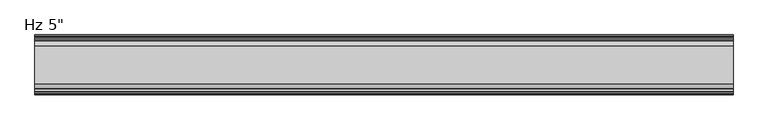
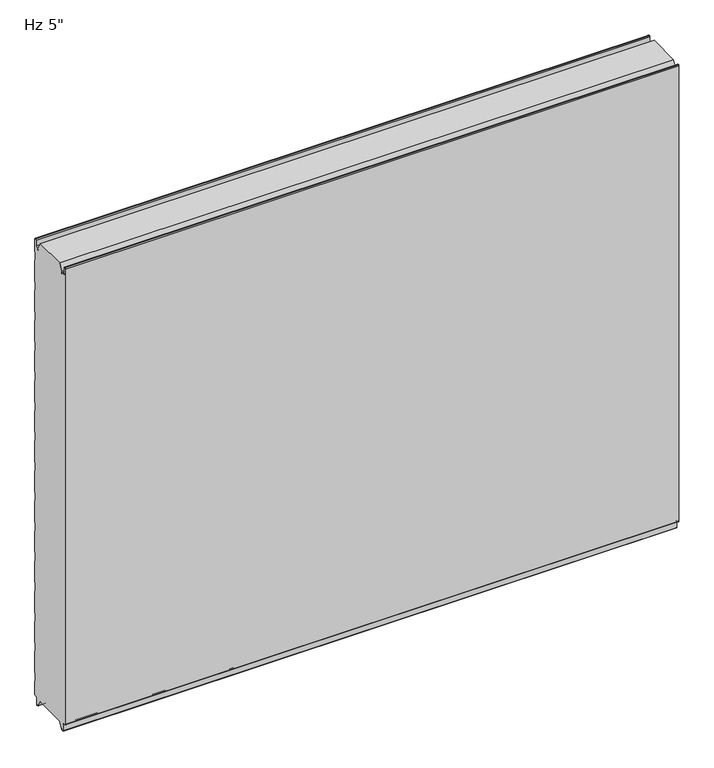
"""IFC4 building model written with IfcOpenShell, lengths in millimetres: plate geometry."""

from ifc_helpers import new_model, si_unit, frame, origin, place, context, project, spatial, polyline, circle_curve, source, transform, mapped, element, save
from ifc_brep_helpers import plane_surface, cylinder_surface, revolved_surface, advanced_brep


def plate_ce0f698b(model_context):
    return source(origin(), model_context, "Body", "AdvancedBrep", [
        advanced_brep(
        [(-730.0, -124.0227194, 3.8499499), (-730.0, -125.9999935, 5.8272239), (-730.0, -126.0, 1150.8100652), (-730.0, -124.0227315, 1152.7873337), (-730.0, -122.9806329, 1152.7873337), (-730.0, -121.0033643, 1150.8100652), (-730.0, -121.0033643, 1136.6216802), (-730.0, -118.4154878, 1134.0338036), (-730.0, -114.0950697, 1134.0338036), (-730.0, -113.5060762, 1133.4253365), (-730.0, -113.5060762, 1131.0482432), (-730.0, -112.5066023, 1131.0482432), (-730.0, -112.5066023, 1136.4905123), (-730.0, -103.2490865, 1152.525), (-730.0, -23.7509179, 1152.525), (-730.0, -14.4934021, 1136.4905123), (-730.0, -14.4934021, 1131.0482432), (-730.0, -13.4939282, 1131.0482432), (-730.0, -13.4939282, 1133.4253365), (-730.0, -12.9049347, 1134.0338036), (-730.0, -8.5845165, 1134.0338036), (-730.0, -5.99664, 1136.6216802), (-730.0, -5.99664, 1150.8100652), (-730.0, -4.0193715, 1152.7873337), (-730.0, -2.9772729, 1152.7873337), (-730.0, -1.0000044, 1150.8100652), (-730.0, -1.0000044, 1118.6385351), (-730.0, -2.1911595, 1117.5660142), (-730.0, -2.1911595, 1097.7830195), (-730.0, -1.0, 1096.7104947), (-730.0, -1.0, 1043.0159187), (-730.0, -2.1911595, 1041.9433939), (-730.0, -2.1911595, 1022.1603992), (-730.0, -1.0, 1021.0878744), (-730.0, -1.0, 967.3932985), (-730.0, -2.1911595, 966.3207736), (-730.0, -2.1911595, 946.537779), (-730.0, -1.0, 945.4652541), (-730.0, -1.0, 891.7706782), (-730.0, -2.1911595, 890.6981534), (-730.0, -2.1911595, 870.9151587), (-730.0, -1.0, 869.8426339), (-730.0, -1.0, 816.148058), (-730.0, -2.1911595, 815.0755331), (-730.0, -2.1911595, 795.2925384), (-730.0, -1.0, 794.2200136), (-730.0, -1.0, 740.5254377), (-730.0, -2.1911595, 739.4529129), (-730.0, -2.1911595, 719.6699182), (-730.0, -1.0, 718.5973933), (-730.0, -1.0, 664.9028174), (-730.0, -2.1911595, 663.8302926), (-730.0, -2.1911595, 644.0472979), (-730.0, -1.0, 642.9747731), (-730.0, -1.0, 589.2801972), (-730.0, -2.1911595, 588.2076723), (-730.0, -2.1911595, 568.4246776), (-730.0, -1.0, 567.3521528), (-730.0, -1.0, 513.6575769), (-730.0, -2.1911595, 512.5850521), (-730.0, -2.1911595, 492.8020574), (-730.0, -1.0, 491.7295325), (-730.0, -1.0, 438.0349566), (-730.0, -2.1911595, 436.9624318), (-730.0, -2.1911595, 417.1794371), (-730.0, -1.0, 416.1069123), (-730.0, -1.0, 362.4123364), (-730.0, -2.1911595, 361.3398115), (-730.0, -2.1911595, 341.5568169), (-730.0, -1.0, 340.484292), (-730.0, -1.0, 286.7897161), (-730.0, -2.1911595, 285.7171913), (-730.0, -2.1911595, 265.9341966), (-730.0, -1.0, 264.8616718), (-730.0, -1.0, 211.1670958), (-730.0, -2.1911595, 210.094571), (-730.0, -2.1911595, 190.3115763), (-730.0, -1.0, 189.2390515), (-730.0, -1.0, 135.5444756), (-730.0, -2.1911595, 134.4719507), (-730.0, -2.1911595, 114.6889561), (-730.0, -1.0, 113.6164312), (-730.0, -1.0, 59.9218553), (-730.0, -2.1911595, 58.8493305), (-730.0, -2.1911595, 39.0663358), (-730.0, -1.0000109, 37.993811), (-730.0, -1.0000109, 5.8272239), (-730.0, -2.9772849, 3.8499499), (-730.0, -5.2691749, 3.8499499), (-730.0, -9.246442, -0.1273173), (-730.0, -9.246442, -15.7237417), (-730.0, -9.8343189, -16.3116186), (-730.0, -12.9058679, -16.3116186), (-730.0, -13.4937446, -15.723742), (-730.0, -13.4937446, -13.3687064), (-730.0, -14.4937446, -13.3687064), (-730.0, -14.4937446, -15.6582851), (-730.0, -23.7509179, 0.0), (-730.0, -103.2490865, 0.0), (-730.0, -112.5062598, -15.6582851), (-730.0, -112.5062598, -13.3687064), (-730.0, -113.5062598, -13.3687064), (-730.0, -113.5062598, -15.723742), (-730.0, -114.0941365, -16.3116186), (-730.0, -117.1656854, -16.3116186), (-730.0, -117.7535623, -15.7237417), (-730.0, -117.7535623, -0.1273173), (-730.0, -121.7308295, 3.8499499), (730.0, -124.0227194, 3.8499499), (730.0, -121.7308295, 3.8499499), (730.0, -117.7535623, -0.1273173), (730.0, -117.7535623, -15.7237417), (730.0, -117.1656854, -16.3116186), (730.0, -114.0941365, -16.3116186), (730.0, -113.5062598, -15.723742), (730.0, -113.5062598, -13.3687064), (730.0, -112.5062598, -13.3687064), (730.0, -112.5062598, -15.6582851), (730.0, -103.2490865, 0.0), (730.0, -23.7509179, 0.0), (730.0, -14.4937446, -15.6582851), (730.0, -14.4937446, -13.3687064), (730.0, -13.4937446, -13.3687064), (730.0, -13.4937446, -15.723742), (730.0, -12.9058679, -16.3116186), (730.0, -9.8343189, -16.3116186), (730.0, -9.246442, -15.7237417), (730.0, -9.246442, -0.1273173), (730.0, -5.2691749, 3.8499499), (730.0, -2.9772849, 3.8499499), (730.0, -1.0000109, 5.8272239), (730.0, -1.0000109, 37.993811), (730.0, -2.1911595, 39.0663358), (730.0, -2.1911595, 58.8493305), (730.0, -1.0, 59.9218553), (730.0, -1.0, 113.6164312), (730.0, -2.1911595, 114.6889561), (730.0, -2.1911595, 134.4719507), (730.0, -1.0, 135.5444756), (730.0, -1.0, 189.2390515), (730.0, -2.1911595, 190.3115763), (730.0, -2.1911595, 210.094571), (730.0, -1.0, 211.1670958), (730.0, -1.0, 264.8616718), (730.0, -2.1911595, 265.9341966), (730.0, -2.1911595, 285.7171913), (730.0, -1.0, 286.7897161), (730.0, -1.0, 340.484292), (730.0, -2.1911595, 341.5568169), (730.0, -2.1911595, 361.3398115), (730.0, -1.0, 362.4123364), (730.0, -1.0, 416.1069123), (730.0, -2.1911595, 417.1794371), (730.0, -2.1911595, 436.9624318), (730.0, -1.0, 438.0349566), (730.0, -1.0, 491.7295325), (730.0, -2.1911595, 492.8020574), (730.0, -2.1911595, 512.5850521), (730.0, -1.0, 513.6575769), (730.0, -1.0, 567.3521528), (730.0, -2.1911595, 568.4246776), (730.0, -2.1911595, 588.2076723), (730.0, -1.0, 589.2801972), (730.0, -1.0, 642.9747731), (730.0, -2.1911595, 644.0472979), (730.0, -2.1911595, 663.8302926), (730.0, -1.0, 664.9028174), (730.0, -1.0, 718.5973933), (730.0, -2.1911595, 719.6699182), (730.0, -2.1911595, 739.4529129), (730.0, -1.0, 740.5254377), (730.0, -1.0, 794.2200136), (730.0, -2.1911595, 795.2925384), (730.0, -2.1911595, 815.0755331), (730.0, -1.0, 816.148058), (730.0, -1.0, 869.8426339), (730.0, -2.1911595, 870.9151587), (730.0, -2.1911595, 890.6981534), (730.0, -1.0, 891.7706782), (730.0, -1.0, 945.4652541), (730.0, -2.1911595, 946.537779), (730.0, -2.1911595, 966.3207736), (730.0, -1.0, 967.3932985), (730.0, -1.0, 1021.0878744), (730.0, -2.1911595, 1022.1603992), (730.0, -2.1911595, 1041.9433939), (730.0, -1.0, 1043.0159187), (730.0, -1.0, 1096.7104947), (730.0, -2.1911595, 1097.7830195), (730.0, -2.1911595, 1117.5660142), (730.0, -1.0000044, 1118.6385351), (730.0, -1.0000044, 1150.8100652), (730.0, -2.9772729, 1152.7873337), (730.0, -4.0193715, 1152.7873337), (730.0, -5.99664, 1150.8100652), (730.0, -5.99664, 1136.6216802), (730.0, -8.5845165, 1134.0338036), (730.0, -12.9049347, 1134.0338036), (730.0, -13.4939282, 1133.4253365), (730.0, -13.4939282, 1131.0482432), (730.0, -14.4934021, 1131.0482432), (730.0, -14.4934021, 1136.4905123), (730.0, -23.7509179, 1152.525), (730.0, -103.2490865, 1152.525), (730.0, -112.5066023, 1136.4905123), (730.0, -112.5066023, 1131.0482432), (730.0, -113.5060762, 1131.0482432), (730.0, -113.5060762, 1133.4253365), (730.0, -114.0950697, 1134.0338036), (730.0, -118.4154878, 1134.0338036), (730.0, -121.0033643, 1136.6216802), (730.0, -121.0033643, 1150.8100652), (730.0, -122.9806329, 1152.7873337), (730.0, -124.0227315, 1152.7873337), (730.0, -126.0, 1150.8100652), (730.0, -126.0, 5.8272239)],
        [
            (0, 1, circle_curve(frame((-730.0, -124.0227194, 5.8272239), z_axis=(-1.0, 0.0, 0.0), x_axis=(0.0, 0.0, -1.0)), 1.977274)),
            (1, 2),
            (2, 3, circle_curve(frame((-730.0, -124.0227315, 1150.8100652), z_axis=(-1.0, 0.0, 0.0), x_axis=(0.0, 0.0, -1.0)), 1.9772685)),
            (3, 4),
            (4, 5, circle_curve(frame((-730.0, -122.9806329, 1150.8100652), z_axis=(-1.0, 0.0, 0.0), x_axis=(0.0, 0.0, -1.0)), 1.9772685)),
            (5, 6),
            (6, 7, circle_curve(frame((-730.0, -118.4154878, 1136.6216802), z_axis=(1.0, 0.0, 0.0), x_axis=(0.0, 0.0, -1.0)), 2.5878765)),
            (7, 8),
            (8, 9, circle_curve(frame((-730.0, -114.0950697, 1133.4444985), z_axis=(-1.0, 0.0, 0.0), x_axis=(0.0, 0.0, -1.0)), 0.5893051)),
            (9, 10),
            (10, 11),
            (11, 12),
            (12, 13),
            (13, 14),
            (14, 15),
            (15, 16),
            (16, 17),
            (17, 18),
            (18, 19, circle_curve(frame((-730.0, -12.9049347, 1133.4444985), z_axis=(-1.0, 0.0, 0.0), x_axis=(0.0, 1.0, 0.0)), 0.5893051)),
            (19, 20),
            (20, 21, circle_curve(frame((-730.0, -8.5845165, 1136.6216802), z_axis=(1.0, 0.0, 0.0), x_axis=(0.0, 1.0, 0.0)), 2.5878765)),
            (21, 22),
            (22, 23, circle_curve(frame((-730.0, -4.0193715, 1150.8100652), z_axis=(-1.0, 0.0, 0.0), x_axis=(0.0, 1.0, 0.0)), 1.9772685)),
            (23, 24),
            (24, 25, circle_curve(frame((-730.0, -2.9772729, 1150.8100652), z_axis=(-1.0, 0.0, 0.0), x_axis=(0.0, 1.0, 0.0)), 1.9772685)),
            (25, 26),
            (26, 27),
            (27, 28),
            (28, 29),
            (29, 30),
            (30, 31),
            (31, 32),
            (32, 33),
            (33, 34),
            (34, 35),
            (35, 36),
            (36, 37),
            (37, 38),
            (38, 39),
            (39, 40),
            (40, 41),
            (41, 42),
            (42, 43),
            (43, 44),
            (44, 45),
            (45, 46),
            (46, 47),
            (47, 48),
            (48, 49),
            (49, 50),
            (50, 51),
            (51, 52),
            (52, 53),
            (53, 54),
            (54, 55),
            (55, 56),
            (56, 57),
            (57, 58),
            (58, 59),
            (59, 60),
            (60, 61),
            (61, 62),
            (62, 63),
            (63, 64),
            (64, 65),
            (65, 66),
            (66, 67),
            (67, 68),
            (68, 69),
            (69, 70),
            (70, 71),
            (71, 72),
            (72, 73),
            (73, 74),
            (74, 75),
            (75, 76),
            (76, 77),
            (77, 78),
            (78, 79),
            (79, 80),
            (80, 81),
            (81, 82),
            (82, 83),
            (83, 84),
            (84, 85),
            (85, 86),
            (86, 87, circle_curve(frame((-730.0, -2.9772849, 5.8272239), z_axis=(-1.0, 0.0, 0.0), x_axis=(0.0, 1.0, 0.0)), 1.977274)),
            (87, 88),
            (88, 89, circle_curve(frame((-730.0, -5.2691749, -0.1273173), z_axis=(1.0, 0.0, 0.0), x_axis=(0.0, 1.0, 0.0)), 3.9772671)),
            (89, 90),
            (90, 91, circle_curve(frame((-730.0, -9.8343189, -15.7237417), z_axis=(-1.0, 0.0, 0.0), x_axis=(0.0, 1.0, 0.0)), 0.5878769)),
            (91, 92),
            (92, 93, circle_curve(frame((-730.0, -12.9058679, -15.723742), z_axis=(-1.0, 0.0, 0.0), x_axis=(0.0, 1.0, 0.0)), 0.5878766)),
            (93, 94),
            (94, 95),
            (95, 96),
            (96, 97),
            (97, 98),
            (98, 99),
            (99, 100),
            (100, 101),
            (101, 102),
            (102, 103, circle_curve(frame((-730.0, -114.0941365, -15.723742), z_axis=(-1.0, 0.0, 0.0), x_axis=(0.0, 0.0, -1.0)), 0.5878766)),
            (103, 104),
            (104, 105, circle_curve(frame((-730.0, -117.1656854, -15.7237417), z_axis=(-1.0, 0.0, 0.0), x_axis=(0.0, 0.0, -1.0)), 0.5878769)),
            (105, 106),
            (106, 107, circle_curve(frame((-730.0, -121.7308295, -0.1273173), z_axis=(1.0, 0.0, 0.0), x_axis=(0.0, 0.0, -1.0)), 3.9772671)),
            (107, 0),
            (108, 109),
            (109, 110, circle_curve(frame((730.0, -121.7308295, -0.1273173), z_axis=(-1.0, 0.0, 0.0), x_axis=(0.0, 0.0, -1.0)), 3.9772671)),
            (110, 111),
            (111, 112, circle_curve(frame((730.0, -117.1656854, -15.7237417), z_axis=(1.0, 0.0, 0.0), x_axis=(0.0, 0.0, -1.0)), 0.5878769)),
            (112, 113),
            (113, 114, circle_curve(frame((730.0, -114.0941365, -15.723742), z_axis=(1.0, 0.0, 0.0), x_axis=(0.0, 0.0, -1.0)), 0.5878766)),
            (114, 115),
            (115, 116),
            (116, 117),
            (117, 118),
            (118, 119),
            (119, 120),
            (120, 121),
            (121, 122),
            (122, 123),
            (123, 124, circle_curve(frame((730.0, -12.9058679, -15.723742), z_axis=(1.0, 0.0, 0.0), x_axis=(0.0, 1.0, 0.0)), 0.5878766)),
            (124, 125),
            (125, 126, circle_curve(frame((730.0, -9.8343189, -15.7237417), z_axis=(1.0, 0.0, 0.0), x_axis=(0.0, 1.0, 0.0)), 0.5878769)),
            (126, 127),
            (127, 128, circle_curve(frame((730.0, -5.2691749, -0.1273173), z_axis=(-1.0, 0.0, 0.0), x_axis=(0.0, 1.0, 0.0)), 3.9772671)),
            (128, 129),
            (129, 130, circle_curve(frame((730.0, -2.9772849, 5.8272239), z_axis=(1.0, 0.0, 0.0), x_axis=(0.0, 1.0, 0.0)), 1.977274)),
            (130, 131),
            (131, 132),
            (132, 133),
            (133, 134),
            (134, 135),
            (135, 136),
            (136, 137),
            (137, 138),
            (138, 139),
            (139, 140),
            (140, 141),
            (141, 142),
            (142, 143),
            (143, 144),
            (144, 145),
            (145, 146),
            (146, 147),
            (147, 148),
            (148, 149),
            (149, 150),
            (150, 151),
            (151, 152),
            (152, 153),
            (153, 154),
            (154, 155),
            (155, 156),
            (156, 157),
            (157, 158),
            (158, 159),
            (159, 160),
            (160, 161),
            (161, 162),
            (162, 163),
            (163, 164),
            (164, 165),
            (165, 166),
            (166, 167),
            (167, 168),
            (168, 169),
            (169, 170),
            (170, 171),
            (171, 172),
            (172, 173),
            (173, 174),
            (174, 175),
            (175, 176),
            (176, 177),
            (177, 178),
            (178, 179),
            (179, 180),
            (180, 181),
            (181, 182),
            (182, 183),
            (183, 184),
            (184, 185),
            (185, 186),
            (186, 187),
            (187, 188),
            (188, 189),
            (189, 190),
            (190, 191),
            (191, 192, circle_curve(frame((730.0, -2.9772729, 1150.8100652), z_axis=(1.0, 0.0, 0.0), x_axis=(0.0, 1.0, 0.0)), 1.9772685)),
            (192, 193),
            (193, 194, circle_curve(frame((730.0, -4.0193715, 1150.8100652), z_axis=(1.0, 0.0, 0.0), x_axis=(0.0, 1.0, 0.0)), 1.9772685)),
            (194, 195),
            (195, 196, circle_curve(frame((730.0, -8.5845165, 1136.6216802), z_axis=(-1.0, 0.0, 0.0), x_axis=(0.0, 1.0, 0.0)), 2.5878765)),
            (196, 197),
            (197, 198, circle_curve(frame((730.0, -12.9049347, 1133.4444985), z_axis=(1.0, 0.0, 0.0), x_axis=(0.0, 1.0, 0.0)), 0.5893051)),
            (198, 199),
            (199, 200),
            (200, 201),
            (201, 202),
            (202, 203),
            (203, 204),
            (204, 205),
            (205, 206),
            (206, 207),
            (207, 208, circle_curve(frame((730.0, -114.0950697, 1133.4444985), z_axis=(1.0, 0.0, 0.0), x_axis=(0.0, 0.0, -1.0)), 0.5893051)),
            (208, 209),
            (209, 210, circle_curve(frame((730.0, -118.4154878, 1136.6216802), z_axis=(-1.0, 0.0, 0.0), x_axis=(0.0, 0.0, -1.0)), 2.5878765)),
            (210, 211),
            (211, 212, circle_curve(frame((730.0, -122.9806329, 1150.8100652), z_axis=(1.0, 0.0, 0.0), x_axis=(0.0, 0.0, -1.0)), 1.9772685)),
            (212, 213),
            (213, 214, circle_curve(frame((730.0, -124.0227315, 1150.8100652), z_axis=(1.0, 0.0, 0.0), x_axis=(0.0, 0.0, -1.0)), 1.9772685)),
            (214, 215),
            (215, 108, circle_curve(frame((730.0, -124.0227194, 5.8272239), z_axis=(1.0, 0.0, 0.0), x_axis=(0.0, 0.0, -1.0)), 1.977274)),
            (27, 189),
            (188, 28),
            (26, 190),
            (25, 191),
            (24, 192),
            (23, 193),
            (22, 194),
            (21, 195),
            (20, 196),
            (19, 197),
            (18, 198),
            (17, 199),
            (16, 200),
            (15, 201),
            (14, 202),
            (96, 120),
            (119, 97),
            (95, 121),
            (94, 122),
            (93, 123),
            (92, 124),
            (91, 125),
            (90, 126),
            (89, 127),
            (88, 128),
            (87, 129),
            (86, 130),
            (85, 131),
            (84, 132),
            (83, 133),
            (82, 134),
            (81, 135),
            (80, 136),
            (79, 137),
            (78, 138),
            (77, 139),
            (76, 140),
            (75, 141),
            (74, 142),
            (73, 143),
            (72, 144),
            (71, 145),
            (70, 146),
            (69, 147),
            (68, 148),
            (67, 149),
            (66, 150),
            (65, 151),
            (64, 152),
            (63, 153),
            (62, 154),
            (61, 155),
            (60, 156),
            (59, 157),
            (58, 158),
            (57, 159),
            (56, 160),
            (55, 161),
            (54, 162),
            (53, 163),
            (52, 164),
            (51, 165),
            (50, 166),
            (49, 167),
            (48, 168),
            (47, 169),
            (46, 170),
            (45, 171),
            (44, 172),
            (43, 173),
            (42, 174),
            (41, 175),
            (40, 176),
            (39, 177),
            (38, 178),
            (37, 179),
            (36, 180),
            (35, 181),
            (34, 182),
            (33, 183),
            (32, 184),
            (31, 185),
            (30, 186),
            (29, 187),
            (13, 203),
            (118, 98),
            (107, 109),
            (108, 0),
            (106, 110),
            (105, 111),
            (104, 112),
            (103, 113),
            (102, 114),
            (101, 115),
            (100, 116),
            (99, 117),
            (12, 204),
            (11, 205),
            (10, 206),
            (9, 207),
            (8, 208),
            (7, 209),
            (6, 210),
            (5, 211),
            (4, 212),
            (3, 213),
            (2, 214),
            (1, 215),
        ],
        [
            plane_surface(frame((-730.0, -126.0, 576.2625), z_axis=(-1.0, 0.0, 0.0), x_axis=(0.0, -1.0, 0.0))),
            plane_surface(frame((730.0, -126.0, 576.2625), z_axis=(1.0, 0.0, 0.0), x_axis=(0.0, -1.0, 0.0))),
            plane_surface(frame((-730.0, -2.1911595, 1097.7830195), z_axis=(0.0, 1.0, 0.0), x_axis=(1.0, 0.0, 0.0))),
            plane_surface(frame((-730.0, -2.1911595, 1117.5660142), z_axis=(0.0, 0.669130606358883, -0.7431448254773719), x_axis=(1.0, 0.0, 0.0))),
            plane_surface(frame((-730.0, -1.0000044, 1118.6385351), z_axis=(0.0, 1.0, 0.0), x_axis=(1.0, 0.0, 0.0))),
            cylinder_surface(frame((-730.0, -2.9772729, 1150.8100652), z_axis=(-1.0, 0.0, 0.0), x_axis=(0.0, 1.0, 0.0)), 1.9772685),
            plane_surface(frame((-730.0, -2.9772729, 1152.7873337), z_axis=(0.0, 0.0, 1.0), x_axis=(1.0, 0.0, 0.0))),
            cylinder_surface(frame((-730.0, -4.0193715, 1150.8100652), z_axis=(-1.0, 0.0, 0.0), x_axis=(0.0, 1.0, 0.0)), 1.9772685),
            plane_surface(frame((-730.0, -5.99664, 1150.8100652), z_axis=(0.0, -1.0, 0.0), x_axis=(1.0, 0.0, 0.0))),
            revolved_surface(polyline([(730.0, -5.996639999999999, 1136.6216802), (-730.0, -5.996639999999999, 1136.6216802)]), (-730.0, -8.5845165, 1136.6216802), (1.0, 0.0, 0.0)),
            plane_surface(frame((-730.0, -8.5845165, 1134.0338036), z_axis=(0.0, 0.0, 1.0), x_axis=(1.0, 0.0, 0.0))),
            cylinder_surface(frame((-730.0, -12.9049347, 1133.4444985), z_axis=(-1.0, 0.0, 0.0), x_axis=(0.0, 1.0, 0.0)), 0.5893051),
            plane_surface(frame((-730.0, -13.4939282, 1133.4253365), z_axis=(0.0, -1.0, 0.0), x_axis=(1.0, 0.0, 0.0))),
            plane_surface(frame((-730.0, -13.4939282, 1131.0482432), z_axis=(0.0, 0.0, 1.0), x_axis=(1.0, 0.0, 0.0))),
            plane_surface(frame((-730.0, -14.4934021, 1131.0482432), z_axis=(0.0, 1.0, 0.0), x_axis=(1.0, 0.0, 0.0))),
            plane_surface(frame((-730.0, -14.4934021, 1136.4905123), z_axis=(0.0, 0.8660254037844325, 0.5000000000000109), x_axis=(1.0, 0.0, 0.0))),
            plane_surface(frame((-730.0, -23.7509179, 0.0), z_axis=(0.0, -0.8608169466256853, -0.5089147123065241), x_axis=(1.0, 0.0, 0.0))),
            plane_surface(frame((-730.0, -14.4937446, -15.6582851), z_axis=(0.0, 1.0, 0.0), x_axis=(1.0, 0.0, 0.0))),
            plane_surface(frame((-730.0, -14.4937446, -13.3687064), z_axis=(0.0, 0.0, -1.0), x_axis=(1.0, 0.0, 0.0))),
            plane_surface(frame((-730.0, -13.4937446, -13.3687064), z_axis=(0.0, -1.0, 0.0), x_axis=(1.0, 0.0, 0.0))),
            cylinder_surface(frame((-730.0, -12.9058679, -15.723742), z_axis=(-1.0, 0.0, 0.0), x_axis=(0.0, 1.0, 0.0)), 0.5878766),
            plane_surface(frame((-730.0, -12.9058679, -16.3116186), z_axis=(0.0, 0.0, -1.0), x_axis=(1.0, 0.0, 0.0))),
            cylinder_surface(frame((-730.0, -9.8343189, -15.7237417), z_axis=(-1.0, 0.0, 0.0), x_axis=(0.0, 1.0, 0.0)), 0.5878769),
            plane_surface(frame((-730.0, -9.246442, -15.7237417), z_axis=(0.0, 1.0, 0.0), x_axis=(1.0, 0.0, 0.0))),
            revolved_surface(polyline([(730.0, -1.2919078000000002, -0.1273173), (-730.0, -1.2919078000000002, -0.1273173)]), (-730.0, -5.2691749, -0.1273173), (1.0, 0.0, 0.0)),
            plane_surface(frame((-730.0, -5.2691749, 3.8499499), z_axis=(0.0, 0.0, -1.0), x_axis=(1.0, 0.0, 0.0))),
            cylinder_surface(frame((-730.0, -2.9772849, 5.8272239), z_axis=(-1.0, 0.0, 0.0), x_axis=(0.0, 1.0, 0.0)), 1.977274),
            plane_surface(frame((-730.0, -1.0000109, 5.8272239), z_axis=(0.0, 1.0, 0.0), x_axis=(1.0, 0.0, 0.0))),
            plane_surface(frame((-730.0, -1.0000109, 37.993811), z_axis=(0.0, 0.6691339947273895, 0.7431417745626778), x_axis=(1.0, 0.0, 0.0))),
            plane_surface(frame((-730.0, -2.1911595, 39.0663358), z_axis=(0.0, 1.0, 0.0), x_axis=(1.0, 0.0, 0.0))),
            plane_surface(frame((-730.0, -2.1911595, 58.8493305), z_axis=(0.0, 0.6691306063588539, -0.7431448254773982), x_axis=(1.0, 0.0, 0.0))),
            plane_surface(frame((-730.0, -1.0, 59.9218553), z_axis=(0.0, 1.0, 0.0), x_axis=(1.0, 0.0, 0.0))),
            plane_surface(frame((-730.0, -1.0, 113.6164312), z_axis=(0.0, 0.6691306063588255, 0.7431448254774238), x_axis=(1.0, 0.0, 0.0))),
            plane_surface(frame((-730.0, -2.1911595, 114.6889561), z_axis=(0.0, 1.0, 0.0), x_axis=(1.0, 0.0, 0.0))),
            plane_surface(frame((-730.0, -2.1911595, 134.4719507), z_axis=(0.0, 0.6691306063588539, -0.7431448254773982), x_axis=(1.0, 0.0, 0.0))),
            plane_surface(frame((-730.0, -1.0, 135.5444756), z_axis=(0.0, 1.0, 0.0), x_axis=(1.0, 0.0, 0.0))),
            plane_surface(frame((-730.0, -1.0, 189.2390515), z_axis=(0.0, 0.669130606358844, 0.743144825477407), x_axis=(1.0, 0.0, 0.0))),
            plane_surface(frame((-730.0, -2.1911595, 190.3115763), z_axis=(0.0, 1.0, 0.0), x_axis=(1.0, 0.0, 0.0))),
            plane_surface(frame((-730.0, -2.1911595, 210.094571), z_axis=(0.0, 0.6691306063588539, -0.7431448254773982), x_axis=(1.0, 0.0, 0.0))),
            plane_surface(frame((-730.0, -1.0, 211.1670958), z_axis=(0.0, 1.0, 0.0), x_axis=(1.0, 0.0, 0.0))),
            plane_surface(frame((-730.0, -1.0, 264.8616718), z_axis=(0.0, 0.6691306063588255, 0.7431448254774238), x_axis=(1.0, 0.0, 0.0))),
            plane_surface(frame((-730.0, -2.1911595, 265.9341966), z_axis=(0.0, 1.0, 0.0), x_axis=(1.0, 0.0, 0.0))),
            plane_surface(frame((-730.0, -2.1911595, 285.7171913), z_axis=(0.0, 0.6691306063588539, -0.7431448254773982), x_axis=(1.0, 0.0, 0.0))),
            plane_surface(frame((-730.0, -1.0, 286.7897161), z_axis=(0.0, 1.0, 0.0), x_axis=(1.0, 0.0, 0.0))),
            plane_surface(frame((-730.0, -1.0, 340.484292), z_axis=(0.0, 0.669130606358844, 0.743144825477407), x_axis=(1.0, 0.0, 0.0))),
            plane_surface(frame((-730.0, -2.1911595, 341.5568169), z_axis=(0.0, 1.0, 0.0), x_axis=(1.0, 0.0, 0.0))),
            plane_surface(frame((-730.0, -2.1911595, 361.3398115), z_axis=(0.0, 0.6691306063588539, -0.7431448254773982), x_axis=(1.0, 0.0, 0.0))),
            plane_surface(frame((-730.0, -1.0, 362.4123364), z_axis=(0.0, 1.0, 0.0), x_axis=(1.0, 0.0, 0.0))),
            plane_surface(frame((-730.0, -1.0, 416.1069123), z_axis=(0.0, 0.669130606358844, 0.743144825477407), x_axis=(1.0, 0.0, 0.0))),
            plane_surface(frame((-730.0, -2.1911595, 417.1794371), z_axis=(0.0, 1.0, 0.0), x_axis=(1.0, 0.0, 0.0))),
            plane_surface(frame((-730.0, -2.1911595, 436.9624318), z_axis=(0.0, 0.6691306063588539, -0.7431448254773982), x_axis=(1.0, 0.0, 0.0))),
            plane_surface(frame((-730.0, -1.0, 438.0349566), z_axis=(0.0, 1.0, 0.0), x_axis=(1.0, 0.0, 0.0))),
            plane_surface(frame((-730.0, -1.0, 491.7295325), z_axis=(0.0, 0.6691306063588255, 0.7431448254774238), x_axis=(1.0, 0.0, 0.0))),
            plane_surface(frame((-730.0, -2.1911595, 492.8020574), z_axis=(0.0, 1.0, 0.0), x_axis=(1.0, 0.0, 0.0))),
            plane_surface(frame((-730.0, -2.1911595, 512.5850521), z_axis=(0.0, 0.6691306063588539, -0.7431448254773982), x_axis=(1.0, 0.0, 0.0))),
            plane_surface(frame((-730.0, -1.0, 513.6575769), z_axis=(0.0, 1.0, 0.0), x_axis=(1.0, 0.0, 0.0))),
            plane_surface(frame((-730.0, -1.0, 567.3521528), z_axis=(0.0, 0.669130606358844, 0.743144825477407), x_axis=(1.0, 0.0, 0.0))),
            plane_surface(frame((-730.0, -2.1911595, 568.4246776), z_axis=(0.0, 1.0, 0.0), x_axis=(1.0, 0.0, 0.0))),
            plane_surface(frame((-730.0, -2.1911595, 588.2076723), z_axis=(0.0, 0.6691306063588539, -0.7431448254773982), x_axis=(1.0, 0.0, 0.0))),
            plane_surface(frame((-730.0, -1.0, 589.2801972), z_axis=(0.0, 1.0, 0.0), x_axis=(1.0, 0.0, 0.0))),
            plane_surface(frame((-730.0, -1.0, 642.9747731), z_axis=(0.0, 0.6691306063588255, 0.7431448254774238), x_axis=(1.0, 0.0, 0.0))),
            plane_surface(frame((-730.0, -2.1911595, 644.0472979), z_axis=(0.0, 1.0, 0.0), x_axis=(1.0, 0.0, 0.0))),
            plane_surface(frame((-730.0, -2.1911595, 663.8302926), z_axis=(0.0, 0.6691306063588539, -0.7431448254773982), x_axis=(1.0, 0.0, 0.0))),
            plane_surface(frame((-730.0, -1.0, 664.9028174), z_axis=(0.0, 1.0, 0.0), x_axis=(1.0, 0.0, 0.0))),
            plane_surface(frame((-730.0, -1.0, 718.5973933), z_axis=(0.0, 0.669130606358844, 0.743144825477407), x_axis=(1.0, 0.0, 0.0))),
            plane_surface(frame((-730.0, -2.1911595, 719.6699182), z_axis=(0.0, 1.0, 0.0), x_axis=(1.0, 0.0, 0.0))),
            plane_surface(frame((-730.0, -2.1911595, 739.4529129), z_axis=(0.0, 0.6691306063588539, -0.7431448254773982), x_axis=(1.0, 0.0, 0.0))),
            plane_surface(frame((-730.0, -1.0, 740.5254377), z_axis=(0.0, 1.0, 0.0), x_axis=(1.0, 0.0, 0.0))),
            plane_surface(frame((-730.0, -1.0, 794.2200136), z_axis=(0.0, 0.6691306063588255, 0.7431448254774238), x_axis=(1.0, 0.0, 0.0))),
            plane_surface(frame((-730.0, -2.1911595, 795.2925384), z_axis=(0.0, 1.0, 0.0), x_axis=(1.0, 0.0, 0.0))),
            plane_surface(frame((-730.0, -2.1911595, 815.0755331), z_axis=(0.0, 0.6691306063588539, -0.7431448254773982), x_axis=(1.0, 0.0, 0.0))),
            plane_surface(frame((-730.0, -1.0, 816.148058), z_axis=(0.0, 1.0, 0.0), x_axis=(1.0, 0.0, 0.0))),
            plane_surface(frame((-730.0, -1.0, 869.8426339), z_axis=(0.0, 0.669130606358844, 0.743144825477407), x_axis=(1.0, 0.0, 0.0))),
            plane_surface(frame((-730.0, -2.1911595, 870.9151587), z_axis=(0.0, 1.0, 0.0), x_axis=(1.0, 0.0, 0.0))),
            plane_surface(frame((-730.0, -2.1911595, 890.6981534), z_axis=(0.0, 0.6691306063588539, -0.7431448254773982), x_axis=(1.0, 0.0, 0.0))),
            plane_surface(frame((-730.0, -1.0, 891.7706782), z_axis=(0.0, 1.0, 0.0), x_axis=(1.0, 0.0, 0.0))),
            plane_surface(frame((-730.0, -1.0, 945.4652541), z_axis=(0.0, 0.669130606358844, 0.743144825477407), x_axis=(1.0, 0.0, 0.0))),
            plane_surface(frame((-730.0, -2.1911595, 946.537779), z_axis=(0.0, 1.0, 0.0), x_axis=(1.0, 0.0, 0.0))),
            plane_surface(frame((-730.0, -2.1911595, 966.3207736), z_axis=(0.0, 0.6691306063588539, -0.7431448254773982), x_axis=(1.0, 0.0, 0.0))),
            plane_surface(frame((-730.0, -1.0, 967.3932985), z_axis=(0.0, 1.0, 0.0), x_axis=(1.0, 0.0, 0.0))),
            plane_surface(frame((-730.0, -1.0, 1021.0878744), z_axis=(0.0, 0.669130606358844, 0.743144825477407), x_axis=(1.0, 0.0, 0.0))),
            plane_surface(frame((-730.0, -2.1911595, 1022.1603992), z_axis=(0.0, 1.0, 0.0), x_axis=(1.0, 0.0, 0.0))),
            plane_surface(frame((-730.0, -2.1911595, 1041.9433939), z_axis=(0.0, 0.6691306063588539, -0.7431448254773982), x_axis=(1.0, 0.0, 0.0))),
            plane_surface(frame((-730.0, -1.0, 1043.0159187), z_axis=(0.0, 1.0, 0.0), x_axis=(1.0, 0.0, 0.0))),
            plane_surface(frame((-730.0, -1.0, 1096.7104947), z_axis=(0.0, 0.669130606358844, 0.743144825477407), x_axis=(1.0, 0.0, 0.0))),
            plane_surface(frame((-730.0, -103.2490865, 1152.525), z_axis=(0.0, 0.0, 1.0), x_axis=(-1.0, 0.0, 0.0))),
            plane_surface(frame((-730.0, -103.2490865, 0.0), z_axis=(0.0, 0.0, -1.0), x_axis=(1.0, 0.0, 0.0))),
            plane_surface(frame((-730.0, -124.0227194, 3.8499499), z_axis=(0.0, 0.0, -1.0), x_axis=(1.0, 0.0, 0.0))),
            revolved_surface(polyline([(730.0, -121.7308295, -4.1045844), (-730.0, -121.7308295, -4.1045844)]), (-730.0, -121.7308295, -0.1273173), (1.0, 0.0, 0.0)),
            plane_surface(frame((-730.0, -117.7535623, -0.1273173), z_axis=(0.0, -1.0, 0.0), x_axis=(1.0, 0.0, 0.0))),
            cylinder_surface(frame((-730.0, -117.1656854, -15.7237417), z_axis=(-1.0, 0.0, 0.0), x_axis=(0.0, 0.0, -1.0)), 0.5878769),
            plane_surface(frame((-730.0, -117.1656854, -16.3116186), z_axis=(0.0, 0.0, -1.0), x_axis=(1.0, 0.0, 0.0))),
            cylinder_surface(frame((-730.0, -114.0941365, -15.723742), z_axis=(-1.0, 0.0, 0.0), x_axis=(0.0, 0.0, -1.0)), 0.5878766),
            plane_surface(frame((-730.0, -113.5062598, -15.723742), z_axis=(0.0, 1.0, 0.0), x_axis=(1.0, 0.0, 0.0))),
            plane_surface(frame((-730.0, -113.5062598, -13.3687064), z_axis=(0.0, 0.0, -1.0), x_axis=(1.0, 0.0, 0.0))),
            plane_surface(frame((-730.0, -112.5062598, -13.3687064), z_axis=(0.0, -1.0, 0.0), x_axis=(1.0, 0.0, 0.0))),
            plane_surface(frame((-730.0, -112.5062598, -15.6582851), z_axis=(0.0, 0.8608169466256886, -0.5089147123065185), x_axis=(1.0, 0.0, 0.0))),
            plane_surface(frame((-730.0, -103.2490865, 1152.525), z_axis=(0.0, -0.8660254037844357, 0.5000000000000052), x_axis=(1.0, 0.0, 0.0))),
            plane_surface(frame((-730.0, -112.5066023, 1136.4905123), z_axis=(0.0, -1.0, 0.0), x_axis=(1.0, 0.0, 0.0))),
            plane_surface(frame((-730.0, -112.5066023, 1131.0482432), z_axis=(0.0, 0.0, 1.0), x_axis=(1.0, 0.0, 0.0))),
            plane_surface(frame((-730.0, -113.5060762, 1131.0482432), z_axis=(0.0, 1.0, 0.0), x_axis=(1.0, 0.0, 0.0))),
            cylinder_surface(frame((-730.0, -114.0950697, 1133.4444985), z_axis=(-1.0, 0.0, 0.0), x_axis=(0.0, 0.0, -1.0)), 0.5893051),
            plane_surface(frame((-730.0, -114.0950697, 1134.0338036), z_axis=(0.0, 0.0, 1.0), x_axis=(1.0, 0.0, 0.0))),
            revolved_surface(polyline([(730.0, -118.4154878, 1134.0338037), (-730.0, -118.4154878, 1134.0338037)]), (-730.0, -118.4154878, 1136.6216802), (1.0, 0.0, 0.0)),
            plane_surface(frame((-730.0, -121.0033643, 1136.6216802), z_axis=(0.0, 1.0, 0.0), x_axis=(1.0, 0.0, 0.0))),
            cylinder_surface(frame((-730.0, -122.9806329, 1150.8100652), z_axis=(-1.0, 0.0, 0.0), x_axis=(0.0, 0.0, -1.0)), 1.9772685),
            plane_surface(frame((-730.0, -122.9806329, 1152.7873337), z_axis=(0.0, 0.0, 1.0), x_axis=(1.0, 0.0, 0.0))),
            cylinder_surface(frame((-730.0, -124.0227315, 1150.8100652), z_axis=(-1.0, 0.0, 0.0), x_axis=(0.0, 0.0, -1.0)), 1.9772685),
            plane_surface(frame((-730.0, -126.0, 1150.8100652), z_axis=(0.0, -1.0, 0.0), x_axis=(1.0, 0.0, 0.0))),
            cylinder_surface(frame((-730.0, -124.0227194, 5.8272239), z_axis=(-1.0, 0.0, 0.0), x_axis=(0.0, 0.0, -1.0)), 1.977274),
        ],
        [
            (0, [[1, 2, 3, 4, 5, 6, 7, 8, 9, 10, 11, 12, 13, 14, 15, 16, 17, 18, 19, 20, 21, 22, 23, 24, 25, 26, 27, 28, 29, 30, 31, 32, 33, 34, 35, 36, 37, 38, 39, 40, 41, 42, 43, 44, 45, 46, 47, 48, 49, 50, 51, 52, 53, 54, 55, 56, 57, 58, 59, 60, 61, 62, 63, 64, 65, 66, 67, 68, 69, 70, 71, 72, 73, 74, 75, 76, 77, 78, 79, 80, 81, 82, 83, 84, 85, 86, 87, 88, 89, 90, 91, 92, 93, 94, 95, 96, 97, 98, 99, 100, 101, 102, 103, 104, 105, 106, 107, 108]]),
            (1, [[109, 110, 111, 112, 113, 114, 115, 116, 117, 118, 119, 120, 121, 122, 123, 124, 125, 126, 127, 128, 129, 130, 131, 132, 133, 134, 135, 136, 137, 138, 139, 140, 141, 142, 143, 144, 145, 146, 147, 148, 149, 150, 151, 152, 153, 154, 155, 156, 157, 158, 159, 160, 161, 162, 163, 164, 165, 166, 167, 168, 169, 170, 171, 172, 173, 174, 175, 176, 177, 178, 179, 180, 181, 182, 183, 184, 185, 186, 187, 188, 189, 190, 191, 192, 193, 194, 195, 196, 197, 198, 199, 200, 201, 202, 203, 204, 205, 206, 207, 208, 209, 210, 211, 212, 213, 214, 215, 216]]),
            (2, [[217, -189, 218, -28]]),
            (3, [[219, -190, -217, -27]]),
            (4, [[220, -191, -219, -26]]),
            (5, [[221, -192, -220, -25]]),
            (6, [[222, -193, -221, -24]]),
            (7, [[223, -194, -222, -23]]),
            (8, [[224, -195, -223, -22]]),
            (9, [[225, -196, -224, -21]]),
            (10, [[226, -197, -225, -20]]),
            (11, [[227, -198, -226, -19]]),
            (12, [[228, -199, -227, -18]]),
            (13, [[229, -200, -228, -17]]),
            (14, [[230, -201, -229, -16]]),
            (15, [[231, -202, -230, -15]]),
            (16, [[232, -120, 233, -97]]),
            (17, [[234, -121, -232, -96]]),
            (18, [[235, -122, -234, -95]]),
            (19, [[236, -123, -235, -94]]),
            (20, [[237, -124, -236, -93]]),
            (21, [[238, -125, -237, -92]]),
            (22, [[239, -126, -238, -91]]),
            (23, [[240, -127, -239, -90]]),
            (24, [[241, -128, -240, -89]]),
            (25, [[242, -129, -241, -88]]),
            (26, [[243, -130, -242, -87]]),
            (27, [[244, -131, -243, -86]]),
            (28, [[245, -132, -244, -85]]),
            (29, [[246, -133, -245, -84]]),
            (30, [[247, -134, -246, -83]]),
            (31, [[248, -135, -247, -82]]),
            (32, [[249, -136, -248, -81]]),
            (33, [[250, -137, -249, -80]]),
            (34, [[251, -138, -250, -79]]),
            (35, [[252, -139, -251, -78]]),
            (36, [[253, -140, -252, -77]]),
            (37, [[254, -141, -253, -76]]),
            (38, [[255, -142, -254, -75]]),
            (39, [[256, -143, -255, -74]]),
            (40, [[257, -144, -256, -73]]),
            (41, [[258, -145, -257, -72]]),
            (42, [[259, -146, -258, -71]]),
            (43, [[260, -147, -259, -70]]),
            (44, [[261, -148, -260, -69]]),
            (45, [[262, -149, -261, -68]]),
            (46, [[263, -150, -262, -67]]),
            (47, [[264, -151, -263, -66]]),
            (48, [[265, -152, -264, -65]]),
            (49, [[266, -153, -265, -64]]),
            (50, [[267, -154, -266, -63]]),
            (51, [[268, -155, -267, -62]]),
            (52, [[269, -156, -268, -61]]),
            (53, [[270, -157, -269, -60]]),
            (54, [[271, -158, -270, -59]]),
            (55, [[272, -159, -271, -58]]),
            (56, [[273, -160, -272, -57]]),
            (57, [[274, -161, -273, -56]]),
            (58, [[275, -162, -274, -55]]),
            (59, [[276, -163, -275, -54]]),
            (60, [[277, -164, -276, -53]]),
            (61, [[278, -165, -277, -52]]),
            (62, [[279, -166, -278, -51]]),
            (63, [[280, -167, -279, -50]]),
            (64, [[281, -168, -280, -49]]),
            (65, [[282, -169, -281, -48]]),
            (66, [[283, -170, -282, -47]]),
            (67, [[284, -171, -283, -46]]),
            (68, [[285, -172, -284, -45]]),
            (69, [[286, -173, -285, -44]]),
            (70, [[287, -174, -286, -43]]),
            (71, [[288, -175, -287, -42]]),
            (72, [[289, -176, -288, -41]]),
            (73, [[290, -177, -289, -40]]),
            (74, [[291, -178, -290, -39]]),
            (75, [[292, -179, -291, -38]]),
            (76, [[293, -180, -292, -37]]),
            (77, [[294, -181, -293, -36]]),
            (78, [[295, -182, -294, -35]]),
            (79, [[296, -183, -295, -34]]),
            (80, [[297, -184, -296, -33]]),
            (81, [[298, -185, -297, -32]]),
            (82, [[299, -186, -298, -31]]),
            (83, [[300, -187, -299, -30]]),
            (84, [[-218, -188, -300, -29]]),
            (85, [[301, -203, -231, -14]]),
            (86, [[302, -98, -233, -119]]),
            (87, [[303, -109, 304, -108]]),
            (88, [[305, -110, -303, -107]]),
            (89, [[306, -111, -305, -106]]),
            (90, [[307, -112, -306, -105]]),
            (91, [[308, -113, -307, -104]]),
            (92, [[309, -114, -308, -103]]),
            (93, [[310, -115, -309, -102]]),
            (94, [[311, -116, -310, -101]]),
            (95, [[312, -117, -311, -100]]),
            (96, [[-302, -118, -312, -99]]),
            (97, [[313, -204, -301, -13]]),
            (98, [[314, -205, -313, -12]]),
            (99, [[315, -206, -314, -11]]),
            (100, [[316, -207, -315, -10]]),
            (101, [[317, -208, -316, -9]]),
            (102, [[318, -209, -317, -8]]),
            (103, [[319, -210, -318, -7]]),
            (104, [[320, -211, -319, -6]]),
            (105, [[321, -212, -320, -5]]),
            (106, [[322, -213, -321, -4]]),
            (107, [[323, -214, -322, -3]]),
            (108, [[324, -215, -323, -2]]),
            (109, [[-304, -216, -324, -1]]),
        ],
    ),
    ])


if __name__ == "__main__":
    model = new_model("IFC4")
    model_context = context("Model", 3, world=origin())
    ifc_project = project(units=[si_unit("LENGTHUNIT", "METRE", prefix="MILLI")], contexts=[model_context])
    site = spatial("IfcSite", under=ifc_project)
    building = spatial("IfcBuilding", under=site)
    placement = place(None, origin())
    plate_shape = plate_ce0f698b(model_context)
    element("IfcPlate", 1, ObjectType="KIP-SLI-FLI-R19-CP-Hz-FL_SL : Hz 5\"", at=placement, inside=building, context=model_context, shape_type="MappedRepresentation", body=[
        mapped(plate_shape, transform((0.0, 0.0, 0.0), x_axis=(1.0, 0.0, 0.0), y_axis=(0.0, 1.0, 0.0), z_axis=(0.0, 0.0, 1.0))),
    ])
    save(model, "model.ifc")
